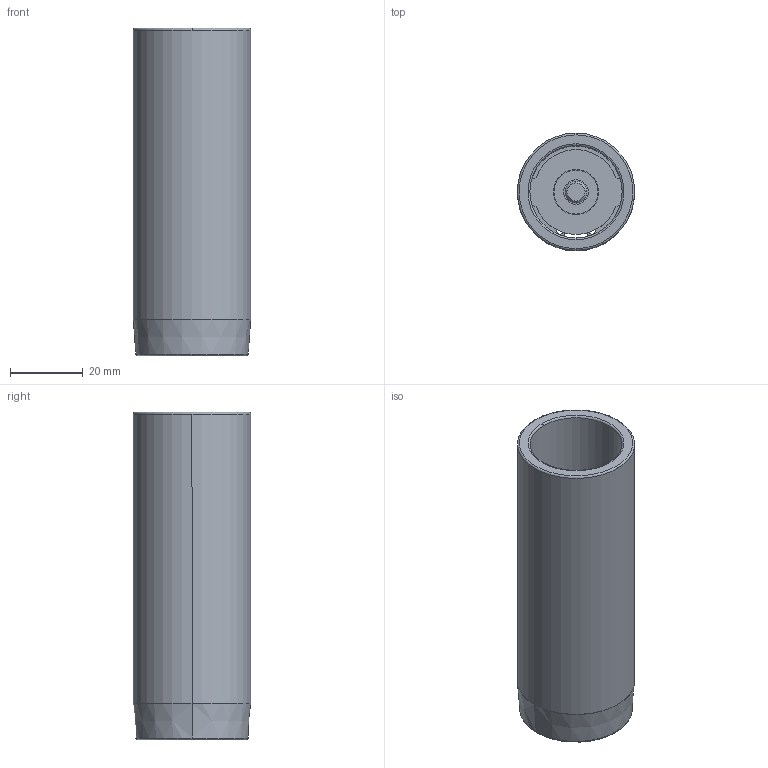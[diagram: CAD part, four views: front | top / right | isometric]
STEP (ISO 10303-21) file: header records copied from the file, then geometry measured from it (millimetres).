
FILE_DESCRIPTION((''),'2;1');
FILE_NAME('C12_025_090.stp','2009-01-28T08:32:16',(''),(''),'Mechanical Desktop 2009','Mechanical Desktop 2009',', , ');
FILE_SCHEMA(('CONFIG_CONTROL_DESIGN'));
Length unit declared in the file: millimetre
Products named in the file (2): Product; blmdl1
Assembly tree (1 placements, depth 2):
  Product
    blmdl1
Bounding box: 32.25 x 32.25 x 90 mm (x, y, z)
Volume: 29139.8 mm3; surface area: 19922.6 mm2
Topology: 5 solids, 5 shells, 79 faces, 200 edges, 134 vertices
Faces by surface type: cylinder 34, plane 29, torus 10, cone 6
Entity records: 2585 total; most frequent: DIRECTION 480, CARTESIAN_POINT 435, ORIENTED_EDGE 400, AXIS2_PLACEMENT_3D 203, EDGE_CURVE 200, VERTEX_POINT 134, CIRCLE 122, EDGE_LOOP 92
